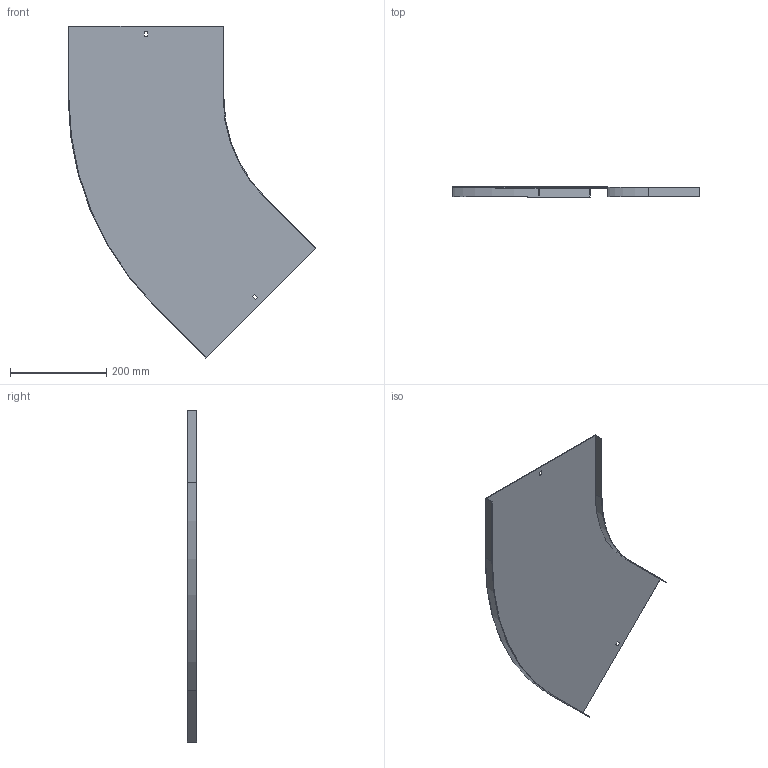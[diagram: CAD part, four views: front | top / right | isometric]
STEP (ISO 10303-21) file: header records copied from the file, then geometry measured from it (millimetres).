
FILE_DESCRIPTION (( 'STEP AP214' ), '1' );
FILE_NAME ('11N3P300.step', '2025-02-21T13:34:56', ( '' ), ( '' ), 'SwSTEP 2.0', 'SolidWorks 2023', '' );
FILE_SCHEMA (( 'AUTOMOTIVE_DESIGN' ));
Length unit declared in the file: millimetre
Products named in the file (1): 11N3P300
Bounding box: 513.57 x 20 x 688.46 mm (x, y, z)
Volume: 352676.3 mm3; surface area: 473368.3 mm2
Topology: 1 solids, 1 shells, 26 faces, 72 edges, 48 vertices
Faces by surface type: plane 22, cylinder 4
Entity records: 855 total; most frequent: CARTESIAN_POINT 147, ORIENTED_EDGE 144, DIRECTION 134, EDGE_CURVE 72, VECTOR 64, LINE 64, VERTEX_POINT 48, AXIS2_PLACEMENT_3D 35
